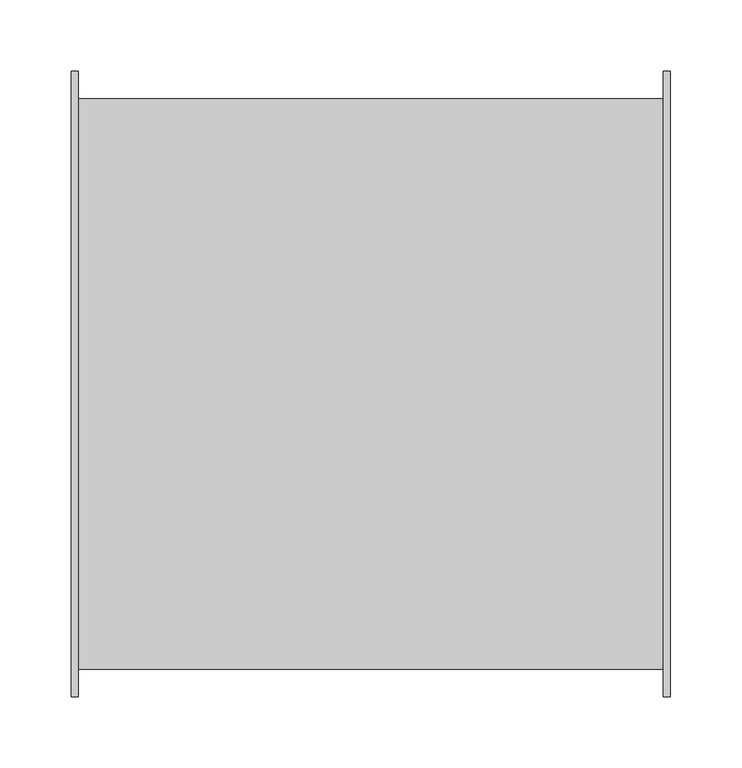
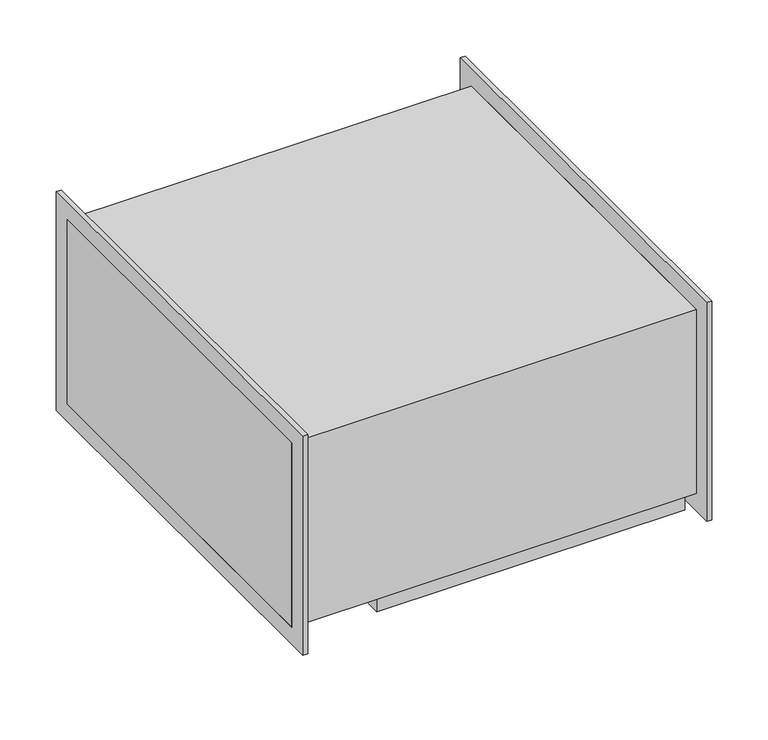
"""IFC4 building model written with IfcOpenShell, lengths in millimetres: unitary equipment geometry, VE-Wentylator-ParaForma-Harmann-DRB_EC-Nawiewny : 040/20/1300EC."""

from ifc_helpers import new_model, si_unit, point, frame, frame_2d, origin, place, context, project, spatial, polyline, circle_curve, trimmed, segment, composite_curve, outline, extrude, faceted_brep, source, transform, mapped, element, save
from ifc_brep_helpers import plane_surface, revolved_surface, advanced_brep


def unitary_equipment_5d39ef2c(model_context):
    return source(origin(), model_context, "Body", "SolidModel", [
        faceted_brep([(-115.0, -186.2, -125.2), (-115.0, -186.2, -100.2), (-115.0, 145.8, -100.2), (-115.0, 145.8, -125.2), (201.5, -186.2, -125.2), (201.5, 145.8, -125.2), (201.5, 145.8, -100.2), (201.5, -186.2, -100.2), (-110.0, 140.8, -125.2), (-110.0, -181.2, -125.2), (196.5, -181.2, -125.2), (196.5, 140.8, -125.2), (-110.0, 140.8, -100.2), (-110.0, -181.2, -100.2), (196.5, -181.2, -100.2), (196.5, 140.8, -100.2), (-205.0, 200.0, -100.2), (-205.0, -200.0, -100.2), (-205.0, -200.0, -100.0), (-205.0, 200.0, -100.0), (205.0, -200.0, -100.2), (205.0, 200.0, -100.2), (205.0, 200.0, -100.0), (205.0, -200.0, -100.0), (210.0, -200.0, -100.0), (210.0, -200.0, 100.0), (205.0, -200.0, 100.0), (205.0, -200.0, 99.8), (-205.0, -200.0, 99.8), (-205.0, -200.0, 100.0), (-210.0, -200.0, 100.0), (-210.0, -200.0, -100.0), (205.0, 200.0, 99.8), (-205.0, 200.0, 99.8), (205.0, 200.0, 100.0), (210.0, 200.0, 100.0), (210.0, 200.0, -100.0), (-210.0, 200.0, -100.0), (-210.0, 200.0, 100.0), (-205.0, 200.0, 100.0)], [[[0, 1, 2, 3]], [[4, 5, 6, 7]], [[1, 0, 4, 7]], [[3, 2, 6, 5]], [[0, 3, 5, 4], [8, 9, 10, 11]], [[8, 12, 13, 9]], [[10, 14, 15, 11]], [[9, 13, 14, 10]], [[12, 8, 11, 15]], [[16, 17, 18, 19]], [[20, 21, 22, 23]], [[17, 20, 23, 24, 25, 26, 27, 28, 29, 30, 31, 18]], [[28, 27, 32, 33]], [[33, 32, 34, 35, 36, 22, 21, 16, 19, 37, 38, 39]], [[13, 12, 15, 14]], [[17, 16, 21, 20], [2, 1, 7, 6]], [[31, 30, 38, 37]], [[39, 29, 28, 33]], [[38, 30, 29, 39]], [[31, 37, 19, 18]], [[26, 34, 32, 27]], [[24, 36, 35, 25]], [[34, 26, 25, 35]], [[36, 24, 23, 22]]]),
        extrude(outline(polyline([(-219.2, -119.0), (-219.2, 119.0), (219.2, 119.0), (219.2, -119.0), (-219.2, -119.0)]), holes=[polyline([(-200.0, -100.0), (200.0, -100.0), (200.0, 100.0), (-200.0, 100.0), (-200.0, -100.0)])]), frame((205.0, 0.0, 0.0), z_axis=(1.0, 0.0, 0.0), x_axis=(0.0, 1.0, 0.0)), (0.0, 0.0, 1.0), 5.0),
        extrude(outline(polyline([(-219.2, -119.0), (-219.2, 119.0), (219.2, 119.0), (219.2, -119.0), (-219.2, -119.0)]), holes=[polyline([(-200.0, -100.0), (200.0, -100.0), (200.0, 100.0), (-200.0, 100.0), (-200.0, -100.0)])]), frame((-210.0, 0.0, 0.0), z_axis=(1.0, 0.0, 0.0), x_axis=(0.0, 1.0, 0.0)), (0.0, 0.0, 1.0), 5.0),
        extrude(outline(composite_curve([segment(polyline([(77.5, 26.1), (-22.5, 26.1)]), True, "CONTINUOUS"), segment(trimmed(circle_curve(frame_2d((-22.5, 31.1)), 5.0), [point((-22.5, 26.1))], [point((-27.5, 31.1))], False, "CARTESIAN"), True, "CONTINUOUS"), segment(polyline([(-27.5, 31.1), (-27.5, 116.1)]), True, "CONTINUOUS"), segment(trimmed(circle_curve(frame_2d((-22.5, 116.1)), 5.0), [point((-27.5, 116.1))], [point((-22.5, 121.1))], False, "CARTESIAN"), True, "CONTINUOUS"), segment(polyline([(-22.5, 121.1), (77.5, 121.1)]), True, "CONTINUOUS"), segment(trimmed(circle_curve(frame_2d((77.5, 116.1)), 5.0), [point((77.5, 121.1))], [point((82.5, 116.1))], False, "CARTESIAN"), True, "CONTINUOUS"), segment(polyline([(82.5, 116.1), (82.5, 31.1)]), True, "CONTINUOUS"), segment(trimmed(circle_curve(frame_2d((77.5, 31.1)), 5.0), [point((82.5, 31.1))], [point((77.5, 26.1))], False, "CARTESIAN"), True, "CONTINUOUS")], self_intersect=False)), frame((0.0, 0.0, -149.7), z_axis=(0.0, 0.0, 1.0), x_axis=(1.0, 0.0, 0.0)), (0.0, 0.0, 1.0), 49.5),
        advanced_brep(
        [(27.5, -77.25, -115.2), (27.5, 19.85, -115.2), (27.5, -92.45, -100.2), (27.5, 35.05, -100.2)],
        [
            (0, 1, circle_curve(frame((27.5, -28.7, -115.2), z_axis=(0.0, 0.0, -1.0), x_axis=(0.0, -1.0, 0.0)), 48.55)),
            (1, 0, circle_curve(frame((27.5, -28.7, -115.2), z_axis=(0.0, 0.0, -1.0), x_axis=(0.0, 1.0, 0.0)), 48.55)),
            (2, 3, circle_curve(frame((27.5, -28.7, -100.2), z_axis=(0.0, 0.0, 1.0), x_axis=(0.0, 1.0, 0.0)), 63.75)),
            (3, 2, circle_curve(frame((27.5, -28.7, -100.2), z_axis=(0.0, 0.0, 1.0), x_axis=(0.0, -1.0, 0.0)), 63.75)),
            (3, 1),
            (0, 2),
        ],
        [
            plane_surface(frame((27.5, -28.7, -115.2), z_axis=(0.0, 0.0, -1.0), x_axis=(-1.0, 0.0, 0.0))),
            plane_surface(frame((27.5, -28.7, -100.2), z_axis=(0.0, 0.0, 1.0), x_axis=(-1.0, 0.0, 0.0))),
            revolved_surface(polyline([(27.5, -77.24999999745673, -115.2), (27.5, -92.45, -100.2)]), (27.5, -28.7, -163.1111842), (0.0, 0.0, 1.0)),
            revolved_surface(polyline([(27.5, 19.84999999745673, -115.2), (27.5, 35.05, -100.2)]), (27.5, -28.7, -163.1111842), (0.0, 0.0, 1.0)),
        ],
        [
            (0, [[1, 2]]),
            (1, [[3, 4]]),
            (2, [[-4, 5, -1, 6]]),
            (3, [[-3, -6, -2, -5]]),
        ],
    ),
    ])


if __name__ == "__main__":
    model = new_model("IFC4")
    model_context = context("Model", 3, world=origin())
    ifc_project = project(units=[si_unit("LENGTHUNIT", "METRE", prefix="MILLI")], contexts=[model_context])
    site = spatial("IfcSite", under=ifc_project)
    building = spatial("IfcBuilding", under=site)
    placement = place(None, origin())
    unitary_equipment_shape = unitary_equipment_5d39ef2c(model_context)
    element("IfcUnitaryEquipment", 1, ObjectType="VE-Wentylator-ParaForma-Harmann-DRB_EC-Nawiewny : 040/20/1300EC", at=placement, inside=building, context=model_context, shape_type="MappedRepresentation", body=[
        mapped(unitary_equipment_shape, transform((0.0, 0.0, 0.0), x_axis=(1.0, 0.0, 0.0), y_axis=(0.0, 1.0, 0.0), z_axis=(0.0, 0.0, 1.0))),
    ])
    save(model, "model.ifc")
